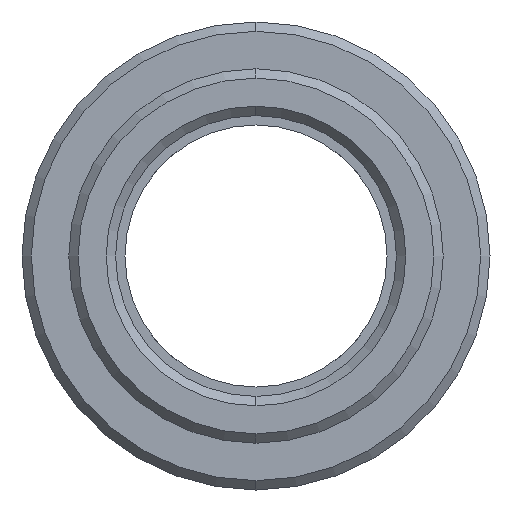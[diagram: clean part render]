
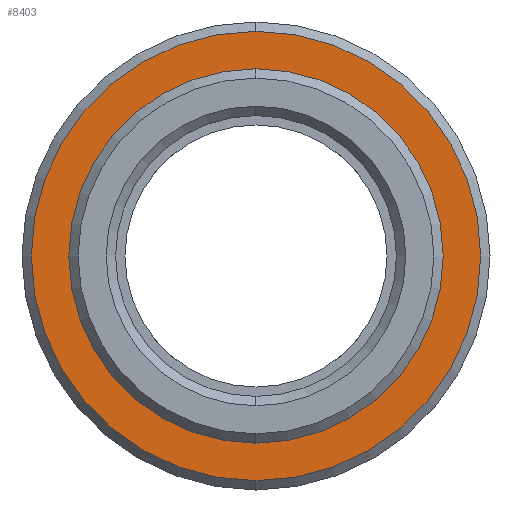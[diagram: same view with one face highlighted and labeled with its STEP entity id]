
A CAD part, left-side view. The second image highlights one B-rep face of the part: STEP entity #8403.
In plain terms, the highlighted planar face has unit normal (-1, 0, 0).
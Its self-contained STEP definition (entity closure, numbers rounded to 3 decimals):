
#3251=CARTESIAN_POINT('',(0.,0.,0.));
#3252=DIRECTION('',(1.,0.,0.));
#3253=DIRECTION('',(0.,0.,1.));
#3254=AXIS2_PLACEMENT_3D('',#3251,#3252,#3253);
#3256=CARTESIAN_POINT('',(0.,0.,0.));
#3257=DIRECTION('',(-1.,0.,0.));
#3258=DIRECTION('',(0.,0.,1.));
#3259=AXIS2_PLACEMENT_3D('',#3256,#3257,#3258);
#3261=CARTESIAN_POINT('',(0.,0.,0.));
#3262=DIRECTION('',(1.,0.,0.));
#3263=DIRECTION('',(0.,0.,1.));
#3264=AXIS2_PLACEMENT_3D('',#3261,#3262,#3263);
#3266=CARTESIAN_POINT('',(0.,0.,
0.));
#3267=DIRECTION('',(1.,0.,0.));
#3268=DIRECTION('',(0.,0.,-1.));
#3269=AXIS2_PLACEMENT_3D('',#3266,#3267,#3268);
#6878=CARTESIAN_POINT('',(0.,0.,10.));
#6879=CARTESIAN_POINT('',(0.,0.,-10.));
#6880=VERTEX_POINT('',#6878);
#6881=VERTEX_POINT('',#6879);
#6902=CARTESIAN_POINT('',(0.,0.,12.));
#6903=CARTESIAN_POINT('',(0.,0.,-12.));
#6904=VERTEX_POINT('',#6902);
#6905=VERTEX_POINT('',#6903);
#8388=CARTESIAN_POINT('',(0.,0.,0.));
#8389=DIRECTION('',(1.,0.,0.));
#8390=DIRECTION('',(0.,0.,1.));
#8391=AXIS2_PLACEMENT_3D('',#8388,#8389,#8390);
#8392=PLANE('',#8391);
#8394=ORIENTED_EDGE('',*,*,#8393,.T.);
#8396=ORIENTED_EDGE('',*,*,#8395,.T.);
#8397=EDGE_LOOP('',(#8394,#8396));
#8398=FACE_OUTER_BOUND('',#8397,.F.);
#8399=ORIENTED_EDGE('',*,*,#8370,.F.);
#8400=ORIENTED_EDGE('',*,*,#8355,.T.);
#8401=EDGE_LOOP('',(#8399,#8400));
#8402=FACE_BOUND('',#8401,.F.);
#8403=ADVANCED_FACE('',(#8398,#8402),#8392,.F.);
#3255=CIRCLE('',#3254,10.);
#3260=CIRCLE('',#3259,10.);
#3265=CIRCLE('',#3264,12.);
#3270=CIRCLE('',#3269,12.);
#8355=EDGE_CURVE('',#6880,#6881,#3260,.T.);
#8370=EDGE_CURVE('',#6880,#6881,#3255,.T.);
#8393=EDGE_CURVE('',#6904,#6905,#3265,.T.);
#8395=EDGE_CURVE('',#6905,#6904,#3270,.T.);
